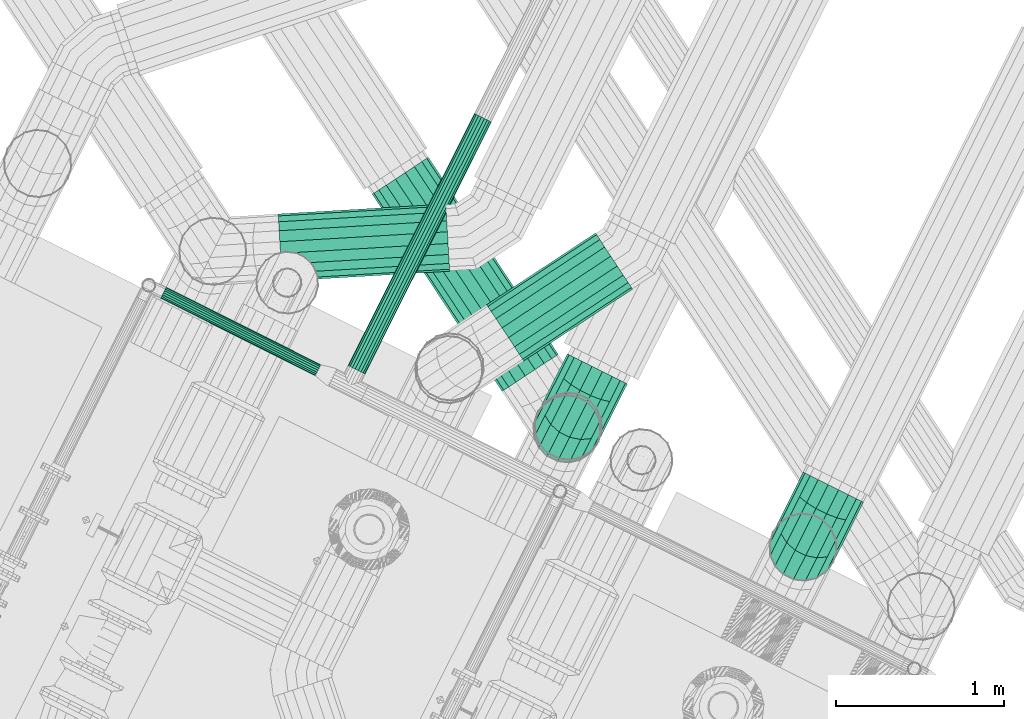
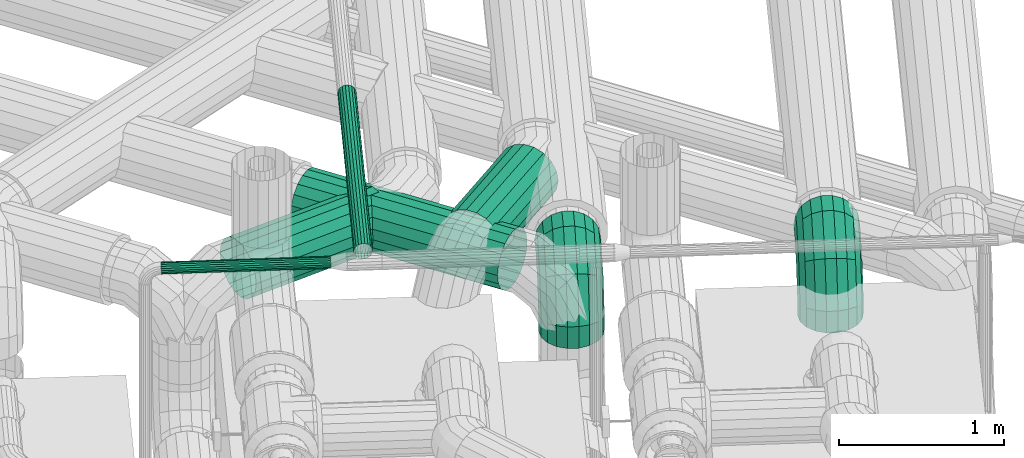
# One storey, part 16 of 206: 5 flow segments, 2 flow fittings.
"""IFC2X3 building model written with IfcOpenShell, lengths in metres."""

from ifc_helpers import new_model, si_unit, derived_unit, direction, frame, origin, place, context, subcontext, project, spatial, face_set, surface_model, source, transform, mapped, material, type_object, type_shapes, element, save


model = new_model("IFC2X3")

# Units and contexts
model_context = context("Model", 3, precision=5.2338327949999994e-05, world=origin(), true_north=direction((0.0, 1.0)))
body_context = subcontext(model_context, "Body", "Model", "MODEL_VIEW")
ifc_project = project(units=[si_unit("LENGTHUNIT", "METRE"), si_unit("AREAUNIT", "SQUARE_METRE"), si_unit("VOLUMEUNIT", "CUBIC_METRE"), si_unit("MASSUNIT", "GRAM", prefix="KILO"), si_unit("PLANEANGLEUNIT", "RADIAN"), derived_unit("THERMALTRANSMITTANCEUNIT", [(si_unit("MASSUNIT", "GRAM", prefix="KILO"), 1), (si_unit("THERMODYNAMICTEMPERATUREUNIT", "KELVIN"), -1), (si_unit("TIMEUNIT", "SECOND"), -3)])], contexts=[model_context])

# Site, building, storey
site_placement = place(None, frame((0.0, 0.0, 0.0), z_axis=(0.0, 0.0, 1.0), x_axis=(0.8939966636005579, -0.4480736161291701, 0.0)))
site = spatial("IfcSite", under=ifc_project, at=site_placement, Name="Default", CompositionType="ELEMENT")
building_placement = place(site_placement, origin())
building = spatial("IfcBuilding", under=site, at=building_placement, CompositionType="ELEMENT")
storey_placement = place(building_placement, origin())
storey = spatial("IfcBuildingStorey", under=building, at=storey_placement, Name="Erdgeschoss", CompositionType="ELEMENT", Elevation=0.0)

# Flow segment
ifc_material_1 = material(Name="IfcSurfaceStyle #251447")
distribution_element_type_1 = type_object("IfcDistributionElementType", Name="Wickelfalzrohr 280819:Wickelfalzrohr 280819", material=ifc_material_1)
shared_shape_1 = source(origin(), body_context, "Body", "SurfaceModel", [
    surface_model("IfcFaceBasedSurfaceModel", [(24.51409882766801, 8.455003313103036, 2.199999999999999), (24.520129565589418, 8.465448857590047, 2.2684040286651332), (23.305507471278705, 9.166711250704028, 2.2684040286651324), (23.2994767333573, 9.156265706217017, 2.1999999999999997), (24.53749438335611, 8.495525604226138, 2.3285575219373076), (23.3228722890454, 9.19678799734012, 2.3285575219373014), (24.56409882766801, 8.54160585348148, 2.3732050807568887), (23.3494767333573, 9.242868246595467, 2.373205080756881), (24.596734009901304, 8.598131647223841, 2.396961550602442), (23.382111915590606, 9.299394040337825, 2.396961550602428), (24.631463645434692, 8.658285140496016, 2.3969615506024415), (23.416841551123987, 9.359547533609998, 2.3969615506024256), (24.664098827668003, 8.71481093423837, 2.3732050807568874), (23.449476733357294, 9.416073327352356, 2.373205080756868), (24.690703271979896, 8.760891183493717, 2.328557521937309), (23.47608117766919, 9.462153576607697, 2.3285575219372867), (24.70806808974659, 8.790967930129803, 2.2684040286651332), (23.49344599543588, 9.492230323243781, 2.268404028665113), (24.714098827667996, 8.801413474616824, 2.1999999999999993), (23.49947673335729, 9.502675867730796, 2.1999999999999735), (24.70806808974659, 8.790967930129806, 2.131595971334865), (23.49344599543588, 9.49223032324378, 2.1315959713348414), (24.690703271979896, 8.760891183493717, 2.07144247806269), (23.47608117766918, 9.46215357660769, 2.0714424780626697), (24.664098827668, 8.714810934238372, 2.02679491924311), (23.449476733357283, 9.41607332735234, 2.026794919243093), (24.631463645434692, 8.658285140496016, 2.0030384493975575), (23.416841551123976, 9.35954753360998, 2.0030384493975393), (24.596734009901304, 8.598131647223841, 2.0030384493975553), (23.382111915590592, 9.299394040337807, 2.003038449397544), (24.564098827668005, 8.54160585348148, 2.0267949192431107), (23.349476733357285, 9.24286824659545, 2.026794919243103), (24.53749438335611, 8.495525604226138, 2.071442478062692), (23.322872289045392, 9.196787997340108, 2.0714424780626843), (24.520129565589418, 8.465448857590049, 2.131595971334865), (23.305507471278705, 9.166711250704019, 2.1315959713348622)], [face_set([[[0, 1, 2, 3]], [[1, 4, 5, 2]], [[4, 6, 7, 5]], [[6, 8, 9, 7]], [[8, 10, 11, 9]], [[10, 12, 13, 11]], [[12, 14, 15, 13]], [[14, 16, 17, 15]], [[16, 18, 19, 17]], [[18, 20, 21, 19]], [[20, 22, 23, 21]], [[22, 24, 25, 23]], [[24, 26, 27, 25]], [[26, 28, 29, 27]], [[28, 30, 31, 29]], [[30, 32, 33, 31]], [[32, 34, 35, 33]], [[34, 0, 3, 35]]])]),
])
type_shapes(distribution_element_type_1, [shared_shape_1])
flow_segment_1_placement = place(storey_placement, origin())
element("IfcFlowSegment", 1, at=flow_segment_1_placement, inside=storey, type_object=distribution_element_type_1, material=ifc_material_1, Name="Wickelfalzrohr", ObjectType="Wickelfalzrohr", context=body_context, shape_type="MappedRepresentation", body=[
    mapped(shared_shape_1, transform((0.0, 0.0, 0.0), scale=1.0)),
])

# Flow fitting
distribution_element_type_2 = type_object("IfcDistributionElementType", Name="Segmentbogen 4 teilig 295291:Segmentbogen 4 teilig 295291", material=ifc_material_1)
shared_shape_2 = source(origin(), body_context, "Body", "SurfaceModel", [
    surface_model("IfcFaceBasedSurfaceModel", [(25.16050898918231, 8.428208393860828, 1.7999999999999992), (25.148447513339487, 8.496612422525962, 1.7999999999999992), (25.148447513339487, 8.496612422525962, 1.888850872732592), (25.16050898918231, 8.42820839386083, 1.9071796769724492), (25.1137178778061, 8.556765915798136, 1.7999999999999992), (25.1137178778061, 8.556765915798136, 1.8727327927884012), (25.06050898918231, 8.601413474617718, 1.7999999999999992), (25.06050898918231, 8.601413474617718, 1.8607695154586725), (24.995238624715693, 8.62516994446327, 1.7999999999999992), (24.995238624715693, 8.62516994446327, 1.854403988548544), (24.925779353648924, 8.625169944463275, 1.7999999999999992), (24.925779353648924, 8.625169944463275, 1.854403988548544), (24.860508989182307, 8.601413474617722, 1.7999999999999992), (24.860508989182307, 8.601413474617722, 1.8607695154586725), (24.807300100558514, 8.556765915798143, 1.7999999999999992), (24.807300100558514, 8.556765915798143, 1.8727327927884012), (24.772570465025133, 8.496612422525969, 1.7999999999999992), (24.772570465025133, 8.496612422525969, 1.8888508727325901), (24.76050898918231, 8.428208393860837, 1.7999999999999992), (24.76050898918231, 8.42820839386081, 1.9071796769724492), (24.772570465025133, 8.359804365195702, 1.7999999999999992), (24.772570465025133, 8.359804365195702, 1.9255084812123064), (24.80730010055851, 8.299650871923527, 1.7999999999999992), (24.80730010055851, 8.299650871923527, 1.941626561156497), (24.8605089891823, 8.255003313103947, 1.7999999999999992), (24.8605089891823, 8.255003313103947, 1.9535898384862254), (24.92577935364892, 8.231246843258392, 1.7999999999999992), (24.92577935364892, 8.231246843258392, 1.959955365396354), (24.99523862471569, 8.231246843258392, 1.7999999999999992), (24.99523862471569, 8.231246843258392, 1.959955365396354), (25.0605089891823, 8.255003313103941, 1.7999999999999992), (25.0605089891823, 8.255003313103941, 1.9535898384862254), (25.1137178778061, 8.299650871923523, 1.7999999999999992), (25.1137178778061, 8.299650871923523, 1.941626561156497), (25.148447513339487, 8.359804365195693, 1.7999999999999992), (25.148447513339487, 8.359804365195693, 1.9255084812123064), (25.14844751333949, 8.585463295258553, 2.042745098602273), (25.160508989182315, 8.535388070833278, 2.0928203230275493), (25.113717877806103, 8.629498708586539, 1.9987096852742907), (25.060508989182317, 8.662182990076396, 1.9660254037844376), (24.995238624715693, 8.679573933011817, 1.948634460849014), (24.92577935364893, 8.679573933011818, 1.9486344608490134), (24.860508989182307, 8.662182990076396, 1.9660254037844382), (24.80730010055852, 8.629498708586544, 1.9987096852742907), (24.772570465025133, 8.585463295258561, 2.0427450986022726), (24.76050898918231, 8.535388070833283, 2.0928203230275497), (24.772570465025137, 8.485312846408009, 2.142895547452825), (24.80730010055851, 8.441277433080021, 2.1869309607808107), (24.860508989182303, 8.40859315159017, 2.2196152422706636), (24.925779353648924, 8.391202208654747, 2.237006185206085), (24.99523862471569, 8.391202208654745, 2.237006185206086), (25.060508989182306, 8.408593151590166, 2.219615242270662), (25.113717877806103, 8.441277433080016, 2.1869309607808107), (25.14844751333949, 8.485312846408, 2.1428955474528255), (25.148447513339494, 8.739357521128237, 2.131595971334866), (25.160508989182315, 8.721028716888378, 2.1999999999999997), (25.11371787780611, 8.755475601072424, 2.0714424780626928), (25.06050898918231, 8.767438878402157, 2.0267949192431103), (24.9952386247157, 8.773804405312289, 2.003038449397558), (24.92577935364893, 8.773804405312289, 2.0030384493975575), (24.860508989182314, 8.76743887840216, 2.026794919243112), (24.807300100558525, 8.755475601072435, 2.0714424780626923), (24.772570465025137, 8.739357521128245, 2.131595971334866), (24.76050898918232, 8.721028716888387, 2.1999999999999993), (24.772570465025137, 8.70269991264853, 2.2684040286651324), (24.80730010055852, 8.686581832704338, 2.3285575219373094), (24.860508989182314, 8.67461855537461, 2.3732050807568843), (24.92577935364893, 8.668253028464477, 2.3969615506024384), (24.995238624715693, 8.668253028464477, 2.396961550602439), (25.06050898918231, 8.674618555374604, 2.373205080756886), (25.113717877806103, 8.68658183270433, 2.3285575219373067), (25.14844751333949, 8.702699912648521, 2.2684040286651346), (25.148447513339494, 8.828208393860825, 2.131595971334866), (25.16050898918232, 8.828208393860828, 2.1999999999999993), (25.113717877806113, 8.828208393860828, 2.0714424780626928), (25.060508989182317, 8.828208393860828, 2.0267949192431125), (24.995238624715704, 8.828208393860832, 2.0030384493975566), (24.925779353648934, 8.828208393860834, 2.0030384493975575), (24.860508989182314, 8.828208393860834, 2.0267949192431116), (24.807300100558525, 8.828208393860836, 2.0714424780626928), (24.772570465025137, 8.828208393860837, 2.131595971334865), (24.76050898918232, 8.828208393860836, 2.1999999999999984), (24.77257046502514, 8.828208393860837, 2.2684040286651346), (24.807300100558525, 8.828208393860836, 2.3285575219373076), (24.860508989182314, 8.828208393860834, 2.3732050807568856), (24.925779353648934, 8.828208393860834, 2.396961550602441), (24.995238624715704, 8.828208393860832, 2.3969615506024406), (25.060508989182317, 8.828208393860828, 2.3732050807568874), (25.113717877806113, 8.828208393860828, 2.3285575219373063), (25.148447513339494, 8.828208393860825, 2.2684040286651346)], [face_set([[[0, 1, 2, 3]], [[1, 4, 5, 2]], [[4, 6, 7, 5]], [[6, 8, 9, 7]], [[8, 10, 11, 9]], [[10, 12, 13, 11]], [[12, 14, 15, 13]], [[14, 16, 17, 15]], [[16, 18, 19, 17]], [[18, 20, 21, 19]], [[20, 22, 23, 21]], [[22, 24, 25, 23]], [[24, 26, 27, 25]], [[26, 28, 29, 27]], [[28, 30, 31, 29]], [[30, 32, 33, 31]], [[32, 34, 35, 33]], [[34, 0, 3, 35]], [[3, 2, 36, 37]], [[2, 5, 38, 36]], [[5, 7, 39, 38]], [[7, 9, 40, 39]], [[9, 11, 41, 40]], [[11, 13, 42, 41]], [[13, 15, 43, 42]], [[15, 17, 44, 43]], [[17, 19, 45, 44]], [[19, 21, 46, 45]], [[21, 23, 47, 46]], [[23, 25, 48, 47]], [[25, 27, 49, 48]], [[27, 29, 50, 49]], [[29, 31, 51, 50]], [[31, 33, 52, 51]], [[33, 35, 53, 52]], [[35, 3, 37, 53]], [[37, 36, 54, 55]], [[36, 38, 56, 54]], [[38, 39, 57, 56]], [[39, 40, 58, 57]], [[40, 41, 59, 58]], [[41, 42, 60, 59]], [[42, 43, 61, 60]], [[43, 44, 62, 61]], [[44, 45, 63, 62]], [[45, 46, 64, 63]], [[46, 47, 65, 64]], [[47, 48, 66, 65]], [[48, 49, 67, 66]], [[49, 50, 68, 67]], [[50, 51, 69, 68]], [[51, 52, 70, 69]], [[52, 53, 71, 70]], [[53, 37, 55, 71]], [[55, 54, 72, 73]], [[54, 56, 74, 72]], [[56, 57, 75, 74]], [[57, 58, 76, 75]], [[58, 59, 77, 76]], [[59, 60, 78, 77]], [[60, 61, 79, 78]], [[61, 62, 80, 79]], [[62, 63, 81, 80]], [[63, 64, 82, 81]], [[64, 65, 83, 82]], [[65, 66, 84, 83]], [[66, 67, 85, 84]], [[67, 68, 86, 85]], [[68, 69, 87, 86]], [[69, 70, 88, 87]], [[70, 71, 89, 88]], [[71, 55, 73, 89]]])]),
])
type_shapes(distribution_element_type_2, [shared_shape_2])
flow_fitting_1_placement = place(storey_placement, origin())
element("IfcFlowFitting", 2, at=flow_fitting_1_placement, inside=storey, type_object=distribution_element_type_2, material=ifc_material_1, Name="Segmentbogen 4 teilig", ObjectType="Segmentbogen 4 teilig", context=body_context, shape_type="MappedRepresentation", body=[
    mapped(shared_shape_2, transform((0.0, 0.0, 0.0), scale=1.0)),
])

# Flow segments
distribution_element_type_3 = type_object("IfcDistributionElementType", Name="Wickelfalzrohr 296660:Wickelfalzrohr 296660", material=ifc_material_1)
shared_shape_3 = source(origin(), body_context, "Body", "SurfaceModel", [
    surface_model("IfcFaceBasedSurfaceModel", [(22.85191915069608, 8.801413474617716, 2.2000000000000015), (22.857949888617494, 8.790967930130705, 2.268404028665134), (23.721916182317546, 9.289779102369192, 2.2684040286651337), (23.71588544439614, 9.300224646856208, 2.2000000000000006), (22.875314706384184, 8.76089118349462, 2.328557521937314), (23.73928100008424, 9.259702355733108, 2.3285575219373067), (22.901919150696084, 8.714810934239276, 2.3732050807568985), (23.765885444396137, 9.21362210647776, 2.3732050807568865), (22.934554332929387, 8.658285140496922, 2.3969615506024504), (23.798520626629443, 9.157096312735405, 2.39696155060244), (22.96928396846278, 8.598131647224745, 2.3969615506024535), (23.83325026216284, 9.096942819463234, 2.396961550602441), (23.001919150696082, 8.541605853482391, 2.3732050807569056), (23.865885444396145, 9.040417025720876, 2.373205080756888), (23.02852359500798, 8.495525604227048, 2.3285575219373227), (23.892489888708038, 8.994336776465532, 2.3285575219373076), (23.045888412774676, 8.465448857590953, 2.26840402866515), (23.909854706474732, 8.964260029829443, 2.268404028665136), (23.051919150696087, 8.455003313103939, 2.2000000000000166), (23.915885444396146, 8.95381448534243, 2.2000000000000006), (23.04588841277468, 8.465448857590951, 2.1315959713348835), (23.909854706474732, 8.964260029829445, 2.131595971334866), (23.02852359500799, 8.49552560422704, 2.0714424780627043), (23.892489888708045, 8.994336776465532, 2.0714424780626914), (23.001919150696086, 8.541605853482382, 2.0267949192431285), (23.86588544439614, 9.040417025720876, 2.026794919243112), (22.96928396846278, 8.598131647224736, 2.0030384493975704), (23.83325026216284, 9.096942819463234, 2.0030384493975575), (22.934554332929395, 8.658285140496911, 2.0030384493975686), (23.798520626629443, 9.157096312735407, 2.003038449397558), (22.90191915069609, 8.714810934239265, 2.0267949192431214), (23.76588544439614, 9.213622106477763, 2.0267949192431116), (22.875314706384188, 8.760891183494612, 2.0714424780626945), (23.73928100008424, 9.259702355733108, 2.0714424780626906), (22.857949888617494, 8.7909679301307, 2.1315959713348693), (23.721916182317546, 9.289779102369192, 2.1315959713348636)], [face_set([[[0, 1, 2, 3]], [[1, 4, 5, 2]], [[4, 6, 7, 5]], [[6, 8, 9, 7]], [[8, 10, 11, 9]], [[10, 12, 13, 11]], [[12, 14, 15, 13]], [[14, 16, 17, 15]], [[16, 18, 19, 17]], [[18, 20, 21, 19]], [[20, 22, 23, 21]], [[22, 24, 25, 23]], [[24, 26, 27, 25]], [[26, 28, 29, 27]], [[28, 30, 31, 29]], [[30, 32, 33, 31]], [[32, 34, 35, 33]], [[34, 0, 3, 35]]])]),
])
type_shapes(distribution_element_type_3, [shared_shape_3])
flow_segment_2_placement = place(storey_placement, origin())
element("IfcFlowSegment", 3, at=flow_segment_2_placement, inside=storey, type_object=distribution_element_type_3, material=ifc_material_1, Name="Wickelfalzrohr", ObjectType="Wickelfalzrohr", context=body_context, shape_type="MappedRepresentation", body=[
    mapped(shared_shape_3, transform((0.0, 0.0, 0.0), scale=1.0)),
])
ifc_material_2 = material(Name="IfcSurfaceStyle #352577")
distribution_element_type_4 = type_object("IfcDistributionElementType", Name="Stahlrohr nach DIN 2448 359159:Stahlrohr nach DIN 2448 359159", material=ifc_material_2)
shared_shape_4 = source(origin(), body_context, "Body", "SurfaceModel", [
    surface_model("IfcFaceBasedSurfaceModel", [(23.478830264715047, 8.077162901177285, 2.567114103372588), (23.478830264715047, 8.06414903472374, 2.5694087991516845), (22.45176673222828, 8.06414903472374, 2.569408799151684), (22.45176673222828, 8.077162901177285, 2.567114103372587), (23.478830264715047, 8.052704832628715, 2.5760161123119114), (22.45176673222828, 8.052704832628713, 2.576016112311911), (23.478830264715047, 8.044210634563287, 2.5861391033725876), (22.45176673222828, 8.044210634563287, 2.586139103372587), (23.478830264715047, 8.03969096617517, 2.598556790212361), (22.45176673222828, 8.03969096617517, 2.598556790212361), (23.478830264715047, 8.03969096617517, 2.611771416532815), (22.45176673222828, 8.03969096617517, 2.6117714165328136), (23.478830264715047, 8.044210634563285, 2.6241891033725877), (22.45176673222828, 8.044210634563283, 2.624189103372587), (23.478830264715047, 8.052704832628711, 2.634312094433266), (22.45176673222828, 8.052704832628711, 2.634312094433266), (23.478830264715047, 8.06414903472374, 2.640919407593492), (22.45176673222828, 8.06414903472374, 2.6409194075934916), (23.478830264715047, 8.077162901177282, 2.6432141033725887), (22.45176673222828, 8.077162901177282, 2.643214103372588), (23.478830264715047, 8.090176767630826, 2.6409194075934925), (22.45176673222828, 8.090176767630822, 2.6409194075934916), (23.478830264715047, 8.101620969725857, 2.6343120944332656), (22.45176673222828, 8.101620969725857, 2.6343120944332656), (23.478830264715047, 8.110115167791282, 2.624189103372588), (22.45176673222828, 8.110115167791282, 2.6241891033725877), (23.478830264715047, 8.1146348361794, 2.611771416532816), (22.45176673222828, 8.114634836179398, 2.611771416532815), (23.478830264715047, 8.1146348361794, 2.5985567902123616), (22.45176673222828, 8.1146348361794, 2.598556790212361), (23.478830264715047, 8.110115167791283, 2.586139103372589), (22.45176673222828, 8.110115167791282, 2.5861391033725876), (23.478830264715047, 8.101620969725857, 2.5760161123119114), (22.45176673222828, 8.101620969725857, 2.576016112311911), (23.478830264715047, 8.090176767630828, 2.569408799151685), (22.45176673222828, 8.090176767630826, 2.5694087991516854)], [face_set([[[0, 1, 2, 3]], [[1, 4, 5, 2]], [[4, 6, 7, 5]], [[6, 8, 9, 7]], [[8, 10, 11, 9]], [[10, 12, 13, 11]], [[12, 14, 15, 13]], [[14, 16, 17, 15]], [[16, 18, 19, 17]], [[18, 20, 21, 19]], [[20, 22, 23, 21]], [[22, 24, 25, 23]], [[24, 26, 27, 25]], [[26, 28, 29, 27]], [[28, 30, 31, 29]], [[30, 32, 33, 31]], [[32, 34, 35, 33]], [[34, 0, 3, 35]]])]),
])
type_shapes(distribution_element_type_4, [shared_shape_4])
flow_segment_3_placement = place(storey_placement, origin())
element("IfcFlowSegment", 4, at=flow_segment_3_placement, inside=storey, type_object=distribution_element_type_4, material=ifc_material_2, Name="Stahlrohr nach DIN 2448", ObjectType="Stahlrohr nach DIN 2448", context=body_context, shape_type="MappedRepresentation", body=[
    mapped(shared_shape_4, transform((0.0, 0.0, 0.0), scale=1.0)),
])
distribution_element_type_5 = type_object("IfcDistributionElementType", Name="Stahlrohr nach DIN 2448 618509:Stahlrohr nach DIN 2448 618509", material=ifc_material_2)
shared_shape_5 = source(origin(), body_context, "Body", "SurfaceModel", [
    surface_model("IfcFaceBasedSurfaceModel", [(23.740980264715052, 9.857735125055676, 2.605164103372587), (23.737533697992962, 9.857735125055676, 2.62471055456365), (23.737533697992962, 8.182162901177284, 2.6247105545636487), (23.740980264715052, 8.182162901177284, 2.6051641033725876), (23.7276097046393, 9.857735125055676, 2.641899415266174), (23.727609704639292, 8.182162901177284, 2.6418994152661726), (23.712405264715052, 9.857735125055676, 2.6546574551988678), (23.71240526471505, 8.182162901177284, 2.6546574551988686), (23.69375425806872, 9.857735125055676, 2.661445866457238), (23.693754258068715, 8.182162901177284, 2.661445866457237), (23.673906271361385, 9.857735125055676, 2.6614458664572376), (23.67390627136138, 8.182162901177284, 2.6614458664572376), (23.65525526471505, 9.857735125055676, 2.6546574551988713), (23.65525526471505, 8.182162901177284, 2.6546574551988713), (23.640050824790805, 9.857735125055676, 2.641899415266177), (23.640050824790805, 8.182162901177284, 2.641899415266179), (23.630126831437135, 9.857735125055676, 2.6247105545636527), (23.630126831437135, 8.182162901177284, 2.6247105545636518), (23.626680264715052, 9.857735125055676, 2.605164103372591), (23.626680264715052, 8.182162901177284, 2.6051641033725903), (23.63012683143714, 9.857735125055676, 2.5856176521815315), (23.630126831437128, 8.182162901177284, 2.5856176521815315), (23.640050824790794, 9.857735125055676, 2.568428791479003), (23.640050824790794, 8.182162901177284, 2.5684287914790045), (23.65525526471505, 9.857735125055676, 2.555670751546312), (23.65525526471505, 8.182162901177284, 2.555670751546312), (23.673906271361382, 9.857735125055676, 2.5488823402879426), (23.67390627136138, 8.182162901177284, 2.548882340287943), (23.69375425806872, 9.857735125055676, 2.5488823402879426), (23.69375425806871, 8.182162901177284, 2.5488823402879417), (23.71240526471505, 9.857735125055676, 2.555670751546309), (23.712405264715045, 8.182162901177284, 2.555670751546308), (23.7276097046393, 9.857735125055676, 2.568428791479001), (23.727609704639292, 8.182162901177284, 2.5684287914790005), (23.737533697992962, 9.857735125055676, 2.585617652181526), (23.73753369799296, 8.182162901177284, 2.5856176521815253)], [face_set([[[0, 1, 2, 3]], [[1, 4, 5, 2]], [[4, 6, 7, 5]], [[6, 8, 9, 7]], [[8, 10, 11, 9]], [[10, 12, 13, 11]], [[12, 14, 15, 13]], [[14, 16, 17, 15]], [[16, 18, 19, 17]], [[18, 20, 21, 19]], [[20, 22, 23, 21]], [[22, 24, 25, 23]], [[24, 26, 27, 25]], [[26, 28, 29, 27]], [[28, 30, 31, 29]], [[30, 32, 33, 31]], [[32, 34, 35, 33]], [[34, 0, 3, 35]]])]),
])
type_shapes(distribution_element_type_5, [shared_shape_5])
flow_segment_4_placement = place(storey_placement, origin())
element("IfcFlowSegment", 5, at=flow_segment_4_placement, inside=storey, type_object=distribution_element_type_5, material=ifc_material_2, Name="Stahlrohr nach DIN 2448", ObjectType="Stahlrohr nach DIN 2448", context=body_context, shape_type="MappedRepresentation", body=[
    mapped(shared_shape_5, transform((0.0, 0.0, 0.0), scale=1.0)),
])
distribution_element_type_6 = type_object("IfcDistributionElementType", Name="Wickelfalzrohr 620716:Wickelfalzrohr 620716", material=ifc_material_1)
shared_shape_6 = source(origin(), body_context, "Body", "SurfaceModel", [
    surface_model("IfcFaceBasedSurfaceModel", [(24.20161661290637, 8.8746185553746, 2.2600000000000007), (24.21206215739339, 8.868587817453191, 2.328404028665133), (24.59935541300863, 9.539399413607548, 2.3284040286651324), (24.588909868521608, 9.545430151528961, 2.26), (24.242138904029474, 8.8512229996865, 2.3885575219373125), (24.629432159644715, 9.522034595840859, 2.3885575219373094), (24.28821915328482, 8.8246185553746, 2.4332050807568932), (24.67551240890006, 9.495430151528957, 2.4332050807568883), (24.344744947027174, 8.791983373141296, 2.456961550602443), (24.732038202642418, 9.46279496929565, 2.4569615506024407), (24.404898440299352, 8.75725373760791, 2.456961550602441), (24.792191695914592, 9.428065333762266, 2.456961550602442), (24.461424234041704, 8.724618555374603, 2.433205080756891), (24.848717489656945, 9.39543015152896, 2.4332050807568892), (24.507504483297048, 8.698014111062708, 2.388557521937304), (24.894797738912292, 9.368825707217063, 2.3885575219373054), (24.537581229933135, 8.68064929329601, 2.3284040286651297), (24.92487448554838, 9.351460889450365, 2.3284040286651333), (24.548026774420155, 8.674618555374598, 2.259999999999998), (24.935320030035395, 9.345430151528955, 2.2600000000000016), (24.537581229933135, 8.680649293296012, 2.1915959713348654), (24.924874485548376, 9.351460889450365, 2.191595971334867), (24.507504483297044, 8.698014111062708, 2.1314424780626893), (24.8947977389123, 9.368825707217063, 2.1314424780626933), (24.4614242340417, 8.724618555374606, 2.086794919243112), (24.848717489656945, 9.39543015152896, 2.0867949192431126), (24.404898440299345, 8.757253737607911, 2.0630384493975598), (24.792191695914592, 9.428065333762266, 2.063038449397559), (24.344744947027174, 8.7919833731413, 2.063038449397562), (24.732038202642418, 9.46279496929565, 2.0630384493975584), (24.288219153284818, 8.824618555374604, 2.086794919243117), (24.67551240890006, 9.495430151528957, 2.0867949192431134), (24.242138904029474, 8.8512229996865, 2.131442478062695), (24.629432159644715, 9.522034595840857, 2.131442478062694), (24.21206215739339, 8.868587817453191, 2.1915959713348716), (24.599355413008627, 9.539399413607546, 2.191595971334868)], [face_set([[[0, 1, 2, 3]], [[1, 4, 5, 2]], [[4, 6, 7, 5]], [[6, 8, 9, 7]], [[8, 10, 11, 9]], [[10, 12, 13, 11]], [[12, 14, 15, 13]], [[14, 16, 17, 15]], [[16, 18, 19, 17]], [[18, 20, 21, 19]], [[20, 22, 23, 21]], [[22, 24, 25, 23]], [[24, 26, 27, 25]], [[26, 28, 29, 27]], [[28, 30, 31, 29]], [[30, 32, 33, 31]], [[32, 34, 35, 33]], [[34, 0, 3, 35]]])]),
])
type_shapes(distribution_element_type_6, [shared_shape_6])
flow_segment_5_placement = place(storey_placement, origin())
element("IfcFlowSegment", 6, at=flow_segment_5_placement, inside=storey, type_object=distribution_element_type_6, material=ifc_material_1, Name="Wickelfalzrohr", ObjectType="Wickelfalzrohr", context=body_context, shape_type="MappedRepresentation", body=[
    mapped(shared_shape_6, transform((0.0, 0.0, 0.0), scale=1.0)),
])

# Flow fitting
distribution_element_type_7 = type_object("IfcDistributionElementType", Name="Segmentbogen 4 teilig 622128:Segmentbogen 4 teilig 622128", material=ifc_material_1)
shared_shape_7 = source(origin(), body_context, "Body", "SurfaceModel", [
    surface_model("IfcFaceBasedSurfaceModel", [(26.72982323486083, 8.428208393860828, 1.849999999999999), (26.717761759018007, 8.496612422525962, 1.849999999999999), (26.717761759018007, 8.496612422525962, 1.938850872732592), (26.72982323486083, 8.42820839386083, 1.9571796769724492), (26.68303212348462, 8.556765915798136, 1.849999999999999), (26.68303212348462, 8.556765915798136, 1.9227327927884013), (26.629823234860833, 8.601413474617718, 1.849999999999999), (26.629823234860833, 8.601413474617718, 1.9107695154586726), (26.564552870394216, 8.62516994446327, 1.849999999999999), (26.564552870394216, 8.62516994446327, 1.904403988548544), (26.495093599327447, 8.625169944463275, 1.849999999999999), (26.495093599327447, 8.625169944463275, 1.904403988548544), (26.42982323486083, 8.601413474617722, 1.849999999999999), (26.42982323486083, 8.601413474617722, 1.9107695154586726), (26.376614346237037, 8.556765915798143, 1.849999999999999), (26.376614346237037, 8.556765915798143, 1.9227327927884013), (26.34188471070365, 8.496612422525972, 1.849999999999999), (26.34188471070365, 8.496612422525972, 1.93885087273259), (26.329823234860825, 8.428208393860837, 1.849999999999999), (26.329823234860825, 8.42820839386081, 1.9571796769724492), (26.34188471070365, 8.359804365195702, 1.849999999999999), (26.34188471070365, 8.359804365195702, 1.9755084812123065), (26.376614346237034, 8.299650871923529, 1.849999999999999), (26.376614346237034, 8.299650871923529, 1.9916265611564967), (26.429823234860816, 8.255003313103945, 1.849999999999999), (26.429823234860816, 8.255003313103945, 2.0035898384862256), (26.495093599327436, 8.231246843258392, 1.849999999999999), (26.495093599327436, 8.231246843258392, 2.009955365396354), (26.564552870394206, 8.23124684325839, 1.849999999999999), (26.564552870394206, 8.23124684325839, 2.009955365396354), (26.62982323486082, 8.255003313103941, 1.849999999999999), (26.62982323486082, 8.255003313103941, 2.0035898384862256), (26.683032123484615, 8.29965087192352, 1.849999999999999), (26.683032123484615, 8.29965087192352, 1.9916265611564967), (26.717761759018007, 8.359804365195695, 1.849999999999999), (26.717761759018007, 8.359804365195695, 1.9755084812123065), (26.717761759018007, 8.585463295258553, 2.0927450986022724), (26.72982323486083, 8.535388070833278, 2.1428203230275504), (26.683032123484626, 8.629498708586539, 2.0487096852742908), (26.629823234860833, 8.662182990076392, 2.016025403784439), (26.564552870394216, 8.679573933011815, 1.9986344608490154), (26.49509359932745, 8.679573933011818, 1.9986344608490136), (26.42982323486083, 8.662182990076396, 2.0160254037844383), (26.37661434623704, 8.629498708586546, 2.048709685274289), (26.34188471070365, 8.585463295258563, 2.0927450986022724), (26.32982323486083, 8.535388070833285, 2.1428203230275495), (26.341884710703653, 8.485312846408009, 2.1928955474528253), (26.376614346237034, 8.441277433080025, 2.23693096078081), (26.429823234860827, 8.40859315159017, 2.2696152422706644), (26.495093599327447, 8.391202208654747, 2.2870061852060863), (26.56455287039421, 8.391202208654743, 2.2870061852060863), (26.629823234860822, 8.408593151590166, 2.2696152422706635), (26.68303212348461, 8.441277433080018, 2.2369309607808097), (26.717761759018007, 8.485312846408, 2.1928955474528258), (26.717761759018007, 8.739357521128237, 2.181595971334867), (26.729823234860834, 8.721028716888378, 2.2499999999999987), (26.68303212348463, 8.755475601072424, 2.1214424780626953), (26.629823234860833, 8.767438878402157, 2.0767949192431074), (26.56455287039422, 8.773804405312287, 2.0530384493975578), (26.49509359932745, 8.773804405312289, 2.0530384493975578), (26.429823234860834, 8.767438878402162, 2.076794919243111), (26.37661434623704, 8.755475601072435, 2.121442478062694), (26.34188471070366, 8.739357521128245, 2.181595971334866), (26.32982323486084, 8.721028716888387, 2.2499999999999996), (26.34188471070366, 8.70269991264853, 2.318404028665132), (26.376614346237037, 8.686581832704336, 2.3785575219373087), (26.429823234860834, 8.674618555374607, 2.423205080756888), (26.49509359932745, 8.668253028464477, 2.4469615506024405), (26.564552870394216, 8.668253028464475, 2.446961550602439), (26.629823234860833, 8.674618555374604, 2.4232050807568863), (26.683032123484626, 8.68658183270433, 2.378557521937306), (26.71776175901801, 8.702699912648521, 2.318404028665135), (26.717761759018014, 8.828208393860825, 2.181595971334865), (26.729823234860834, 8.828208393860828, 2.2500000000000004), (26.683032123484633, 8.828208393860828, 2.121442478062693), (26.629823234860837, 8.828208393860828, 2.076794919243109), (26.564552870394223, 8.828208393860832, 2.0530384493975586), (26.495093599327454, 8.828208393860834, 2.0530384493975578), (26.429823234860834, 8.828208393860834, 2.076794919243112), (26.37661434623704, 8.828208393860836, 2.1214424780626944), (26.341884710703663, 8.828208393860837, 2.181595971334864), (26.329823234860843, 8.828208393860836, 2.2499999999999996), (26.341884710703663, 8.828208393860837, 2.318404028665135), (26.37661434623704, 8.828208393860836, 2.3785575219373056), (26.429823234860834, 8.828208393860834, 2.423205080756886), (26.495093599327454, 8.828208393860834, 2.4469615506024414), (26.564552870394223, 8.828208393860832, 2.4469615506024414), (26.629823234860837, 8.828208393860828, 2.4232050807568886), (26.683032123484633, 8.828208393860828, 2.378557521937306), (26.717761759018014, 8.828208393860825, 2.318404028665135)], [face_set([[[0, 1, 2, 3]], [[1, 4, 5, 2]], [[4, 6, 7, 5]], [[6, 8, 9, 7]], [[8, 10, 11, 9]], [[10, 12, 13, 11]], [[12, 14, 15, 13]], [[14, 16, 17, 15]], [[16, 18, 19, 17]], [[18, 20, 21, 19]], [[20, 22, 23, 21]], [[22, 24, 25, 23]], [[24, 26, 27, 25]], [[26, 28, 29, 27]], [[28, 30, 31, 29]], [[30, 32, 33, 31]], [[32, 34, 35, 33]], [[34, 0, 3, 35]], [[3, 2, 36, 37]], [[2, 5, 38, 36]], [[5, 7, 39, 38]], [[7, 9, 40, 39]], [[9, 11, 41, 40]], [[11, 13, 42, 41]], [[13, 15, 43, 42]], [[15, 17, 44, 43]], [[17, 19, 45, 44]], [[19, 21, 46, 45]], [[21, 23, 47, 46]], [[23, 25, 48, 47]], [[25, 27, 49, 48]], [[27, 29, 50, 49]], [[29, 31, 51, 50]], [[31, 33, 52, 51]], [[33, 35, 53, 52]], [[35, 3, 37, 53]], [[37, 36, 54, 55]], [[36, 38, 56, 54]], [[38, 39, 57, 56]], [[39, 40, 58, 57]], [[40, 41, 59, 58]], [[41, 42, 60, 59]], [[42, 43, 61, 60]], [[43, 44, 62, 61]], [[44, 45, 63, 62]], [[45, 46, 64, 63]], [[46, 47, 65, 64]], [[47, 48, 66, 65]], [[48, 49, 67, 66]], [[49, 50, 68, 67]], [[50, 51, 69, 68]], [[51, 52, 70, 69]], [[52, 53, 71, 70]], [[53, 37, 55, 71]], [[55, 54, 72, 73]], [[54, 56, 74, 72]], [[56, 57, 75, 74]], [[57, 58, 76, 75]], [[58, 59, 77, 76]], [[59, 60, 78, 77]], [[60, 61, 79, 78]], [[61, 62, 80, 79]], [[62, 63, 81, 80]], [[63, 64, 82, 81]], [[64, 65, 83, 82]], [[65, 66, 84, 83]], [[66, 67, 85, 84]], [[67, 68, 86, 85]], [[68, 69, 87, 86]], [[69, 70, 88, 87]], [[70, 71, 89, 88]], [[71, 55, 73, 89]]])]),
])
type_shapes(distribution_element_type_7, [shared_shape_7])
flow_fitting_2_placement = place(storey_placement, origin())
element("IfcFlowFitting", 7, at=flow_fitting_2_placement, inside=storey, type_object=distribution_element_type_7, material=ifc_material_1, Name="Segmentbogen 4 teilig", ObjectType="Segmentbogen 4 teilig", context=body_context, shape_type="MappedRepresentation", body=[
    mapped(shared_shape_7, transform((0.0, 0.0, 0.0), scale=1.0)),
])

save(model, "model.ifc")
